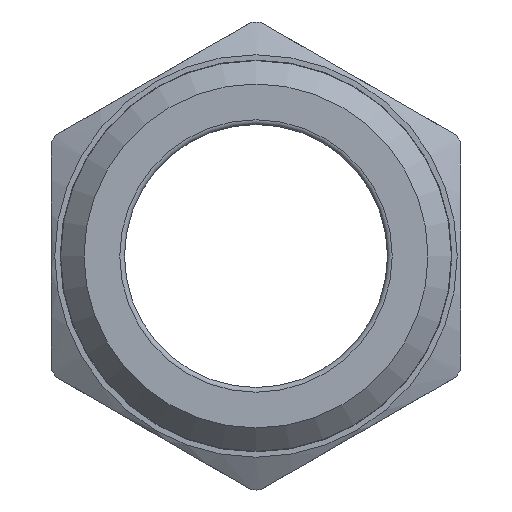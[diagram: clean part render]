
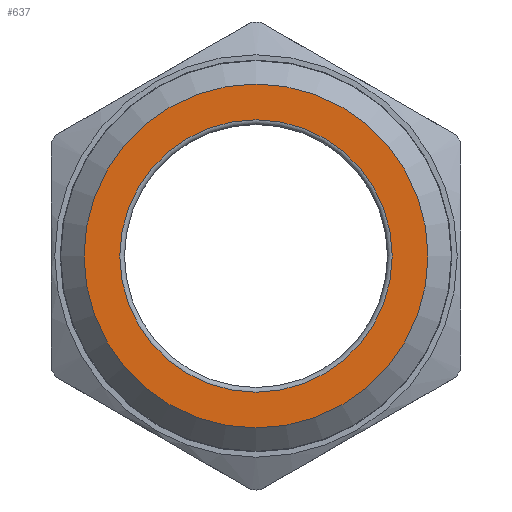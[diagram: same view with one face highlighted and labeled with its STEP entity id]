
A CAD part, front view. The second image highlights one B-rep face of the part: STEP entity #637.
In plain terms, the highlighted planar face has unit normal (0, -1, 0).
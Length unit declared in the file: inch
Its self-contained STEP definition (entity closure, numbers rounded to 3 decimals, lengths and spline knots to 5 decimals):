
#51=FACE_BOUND('',#126,.T.);
#60=PLANE('',#719);
#84=FACE_OUTER_BOUND('',#125,.T.);
#125=EDGE_LOOP('',(#495));
#126=EDGE_LOOP('',(#496,#497));
#230=CIRCLE('',#716,0.291);
#231=CIRCLE('',#717,0.291);
#233=CIRCLE('',#720,0.3675);
#287=VERTEX_POINT('',#1064);
#288=VERTEX_POINT('',#1066);
#289=VERTEX_POINT('',#1071);
#363=EDGE_CURVE('',#287,#288,#230,.T.);
#364=EDGE_CURVE('',#288,#287,#231,.T.);
#366=EDGE_CURVE('',#289,#289,#233,.T.);
#495=ORIENTED_EDGE('',*,*,#366,.F.);
#496=ORIENTED_EDGE('',*,*,#364,.F.);
#497=ORIENTED_EDGE('',*,*,#363,.F.);
#637=ADVANCED_FACE('',(#84,#51),#60,.T.);
#716=AXIS2_PLACEMENT_3D('',#1067,#863,#864);
#717=AXIS2_PLACEMENT_3D('',#1068,#865,#866);
#719=AXIS2_PLACEMENT_3D('',#1070,#869,#870);
#720=AXIS2_PLACEMENT_3D('',#1072,#871,#872);
#863=DIRECTION('center_axis',(0.,-1.,0.));
#864=DIRECTION('ref_axis',(0.,0.,1.));
#865=DIRECTION('center_axis',(0.,-1.,0.));
#866=DIRECTION('ref_axis',(0.,0.,1.));
#869=DIRECTION('center_axis',(0.,-1.,0.));
#870=DIRECTION('ref_axis',(0.,0.,-1.));
#871=DIRECTION('center_axis',(0.,1.,0.));
#872=DIRECTION('ref_axis',(0.,0.,1.));
#1064=CARTESIAN_POINT('',(0.,-1.,0.291));
#1066=CARTESIAN_POINT('',(0.,-1.,-0.291));
#1067=CARTESIAN_POINT('Origin',(0.,-1.,0.));
#1068=CARTESIAN_POINT('Origin',(0.,-1.,0.));
#1070=CARTESIAN_POINT('Origin',(0.,-1.,-0.281));
#1071=CARTESIAN_POINT('',(0.,-1.,-0.3675));
#1072=CARTESIAN_POINT('Origin',(0.,-1.,0.));
